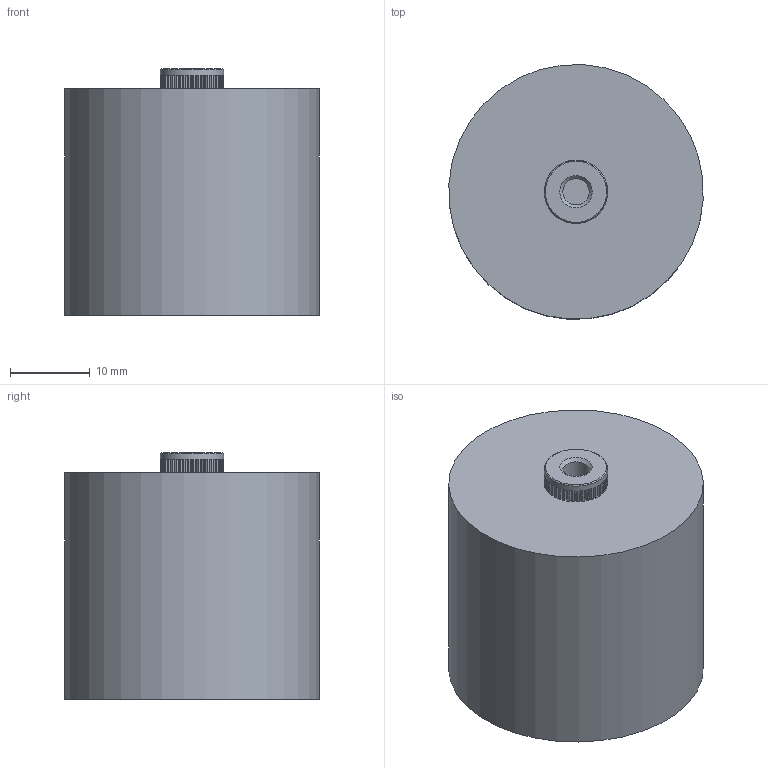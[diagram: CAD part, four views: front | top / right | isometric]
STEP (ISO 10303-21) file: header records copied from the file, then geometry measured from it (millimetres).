
FILE_DESCRIPTION((''),'2;1');
FILE_NAME('I:\Marketing\M6t1\M6T1 - Internal\Drawings\Werk 3\Finished product\Ceramite\Upload for homepage\715\715C###KT###\715C40KTT44.stp','2013-06-10T14:43:11',('sherden'),(''),'Autodesk Inventor 2013','Autodesk Inventor 2013','');
FILE_SCHEMA(('AUTOMOTIVE_DESIGN { 1 2 10303 214 0 1 1 1 }'));
Length unit declared in the file: millimetre
Products named in the file (1): 715C40KTT44
Bounding box: 31.93 x 31.93 x 31 mm (x, y, z)
Volume: 22920.2 mm3; surface area: 4822.2 mm2
Topology: 1 solids, 41 shells, 573 faces, 1419 edges, 932 vertices
Faces by surface type: plane 486, cylinder 84, cone 3
Full cylindrical faces by diameter (mm): 3.302 x2, 7.95 x1, 32 x1
Entity records: 17304 total; most frequent: CARTESIAN_POINT 2916, ORIENTED_EDGE 2822, DIRECTION 2810, EDGE_CURVE 1411, VECTOR 1160, LINE 1160, VERTEX_POINT 931, AXIS2_PLACEMENT_3D 825
